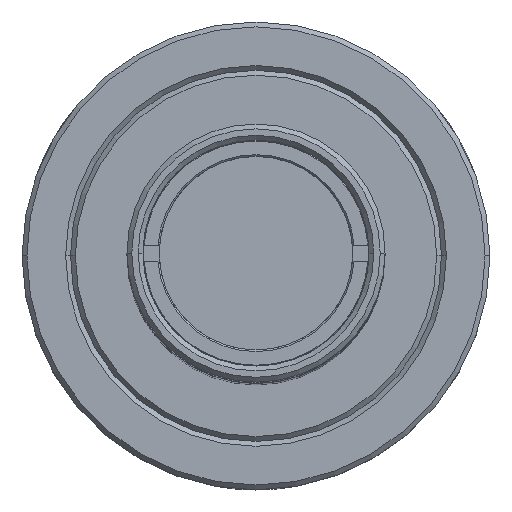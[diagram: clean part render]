
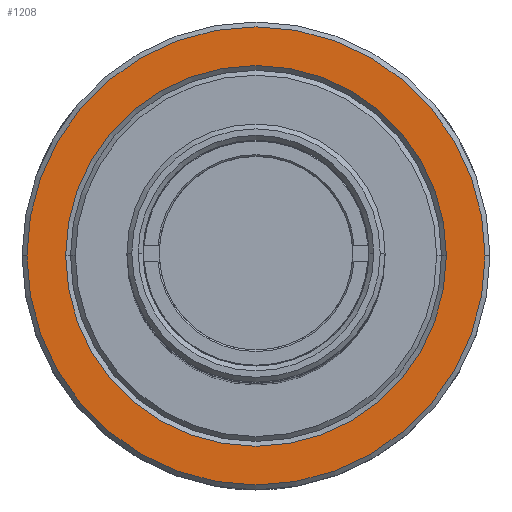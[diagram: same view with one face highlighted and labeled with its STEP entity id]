
A CAD part, top view. The second image highlights one B-rep face of the part: STEP entity #1208.
In plain terms, the highlighted planar face has unit normal (0, 0, 1).
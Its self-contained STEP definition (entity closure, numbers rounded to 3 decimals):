
#721 = VERTEX_POINT ( 'NONE', #2988 ) ;
#723 = VERTEX_POINT ( 'NONE', #2989 ) ;
#728 = VERTEX_POINT ( 'NONE', #2973 ) ;
#829 = EDGE_CURVE ( 'NONE', #728, #723, #3250, .T. ) ;
#834 = EDGE_CURVE ( 'NONE', #865, #721, #3297, .T. ) ;
#865 = VERTEX_POINT ( 'NONE', #3203 ) ;
#1207 = ORIENTED_EDGE ( 'NONE', *, *, #1237, .T. ) ;
#1208 = ADVANCED_FACE ( 'NONE', ( #3645, #3651 ), #3658, .F. ) ;
#1209 = ORIENTED_EDGE ( 'NONE', *, *, #834, .T. ) ;
#1210 = EDGE_LOOP ( 'NONE', ( #1340, #1209 ) ) ;
#1237 = EDGE_CURVE ( 'NONE', #723, #728, #3635, .T. ) ;
#1334 = EDGE_LOOP ( 'NONE', ( #1474, #1207 ) ) ;
#1340 = ORIENTED_EDGE ( 'NONE', *, *, #1384, .T. ) ;
#1384 = EDGE_CURVE ( 'NONE', #721, #865, #4021, .T. ) ;
#1474 = ORIENTED_EDGE ( 'NONE', *, *, #829, .T. ) ;
#2973 = CARTESIAN_POINT ( 'NONE',  ( 11.8, 0., -55.48 ) ) ;
#2988 = CARTESIAN_POINT ( 'NONE',  ( -14.2, 0., -55.48 ) ) ;
#2989 = CARTESIAN_POINT ( 'NONE',  ( -11.8, 0., -55.48 ) ) ;
#3203 = CARTESIAN_POINT ( 'NONE',  ( 14.2, 0., -55.48 ) ) ;
#3250 = CIRCLE ( 'NONE', #3301, 11.8 ) ;
#3289 = DIRECTION ( 'NONE',  ( -1., 0., 0. ) ) ;
#3290 = DIRECTION ( 'NONE',  ( 0., 0., 1. ) ) ;
#3293 = CARTESIAN_POINT ( 'NONE',  ( 0., 0., -55.48 ) ) ;
#3297 = CIRCLE ( 'NONE', #3303, 14.2 ) ;
#3298 = DIRECTION ( 'NONE',  ( -1., 0., 0. ) ) ;
#3299 = DIRECTION ( 'NONE',  ( 0., 0., -1. ) ) ;
#3300 = CARTESIAN_POINT ( 'NONE',  ( 0., 0., -55.48 ) ) ;
#3301 = AXIS2_PLACEMENT_3D ( 'NONE', #3300, #3299, #3298 ) ;
#3303 = AXIS2_PLACEMENT_3D ( 'NONE', #3293, #3290, #3289 ) ;
#3617 = DIRECTION ( 'NONE',  ( -1., 0., 0. ) ) ;
#3618 = DIRECTION ( 'NONE',  ( 0., 0., -1. ) ) ;
#3619 = AXIS2_PLACEMENT_3D ( 'NONE', #3634, #3618, #3617 ) ;
#3634 = CARTESIAN_POINT ( 'NONE',  ( 0., 0., -55.48 ) ) ;
#3635 = CIRCLE ( 'NONE', #3619, 11.8 ) ;
#3645 = FACE_BOUND ( 'NONE', #1334, .T. ) ;
#3651 = FACE_OUTER_BOUND ( 'NONE', #1210, .T. ) ;
#3657 = AXIS2_PLACEMENT_3D ( 'NONE', #3751, #3750, #3749 ) ;
#3658 = PLANE ( 'NONE',  #3657 ) ;
#3749 = DIRECTION ( 'NONE',  ( -1., 0., 0. ) ) ;
#3750 = DIRECTION ( 'NONE',  ( 0., 0., -1. ) ) ;
#3751 = CARTESIAN_POINT ( 'NONE',  ( 0., 11.5, -55.48 ) ) ;
#4021 = CIRCLE ( 'NONE', #4044, 14.2 ) ;
#4041 = DIRECTION ( 'NONE',  ( -1., 0., 0. ) ) ;
#4042 = DIRECTION ( 'NONE',  ( 0., 0., 1. ) ) ;
#4043 = CARTESIAN_POINT ( 'NONE',  ( 0., 0., -55.48 ) ) ;
#4044 = AXIS2_PLACEMENT_3D ( 'NONE', #4043, #4042, #4041 ) ;
